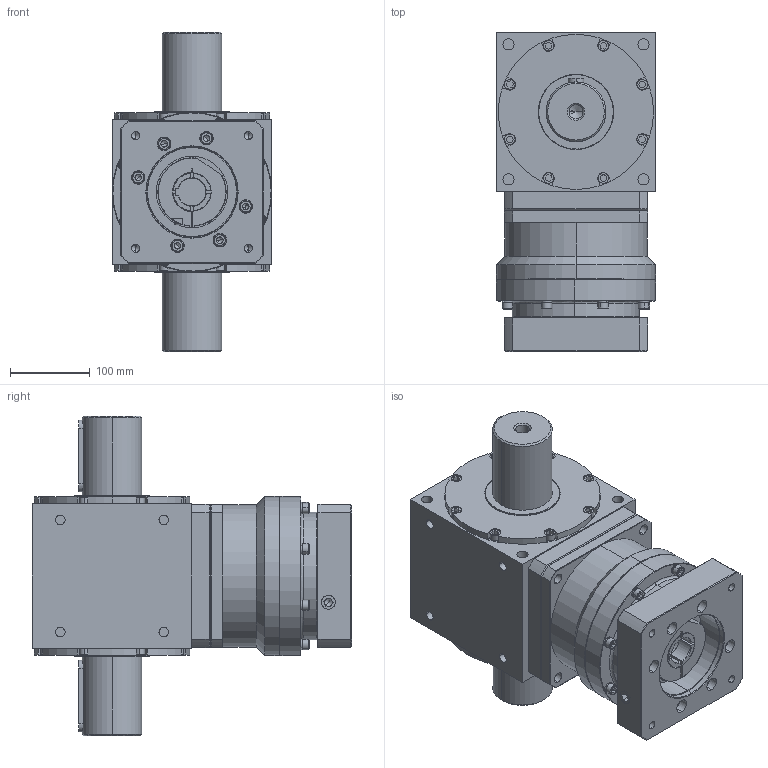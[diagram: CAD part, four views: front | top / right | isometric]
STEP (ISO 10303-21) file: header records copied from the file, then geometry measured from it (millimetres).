
FILE_DESCRIPTION (( 'STEP AP203' ), '1' );
FILE_NAME ('AAW200AS-L1-2P 35-114.3-200-M12.STEP', '2024-12-17T07:08:25', ( '' ), ( '' ), 'SwSTEP 2.0', 'SolidWorks 2021', '' );
FILE_SCHEMA (( 'CONFIG_CONTROL_DESIGN' ));
Length unit declared in the file: millimetre
Products named in the file (3): AAW200AS-L1-2P 35-114.3-200-M12; KS180L1-114.3-35-82-M12-200俋倛芞; AAW200AS-2P
Assembly tree (2 placements, depth 2):
  AAW200AS-L1-2P 35-114.3-200-M12
    AAW200AS-2P
    KS180L1-114.3-35-82-M12-200俋倛芞
Bounding box: 200 x 401 x 402 mm (x, y, z)
Volume: 14462570.3 mm3; surface area: 775987.6 mm2
Topology: 36 solids, 36 shells, 1351 faces, 3202 edges, 1994 vertices
Faces by surface type: plane 632, cylinder 498, cone 179, bspline 42
Entity records: 39796 total; most frequent: CARTESIAN_POINT 8115, DIRECTION 6877, ORIENTED_EDGE 6272, EDGE_CURVE 3136, AXIS2_PLACEMENT_3D 2606, VERTEX_POINT 1994, LINE 1665, VECTOR 1665
